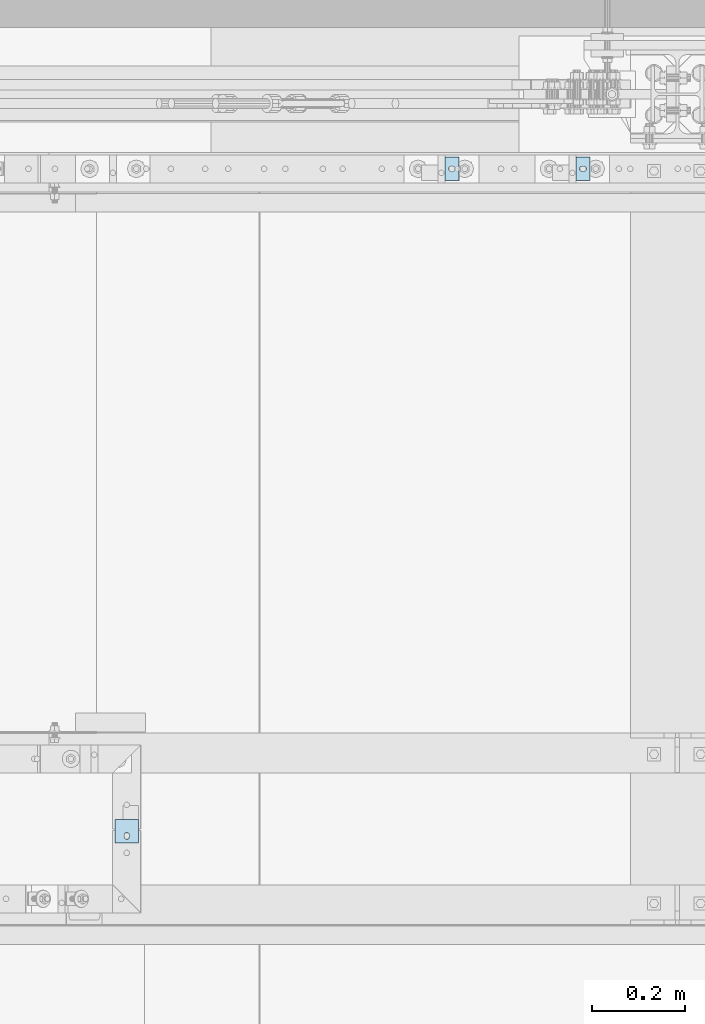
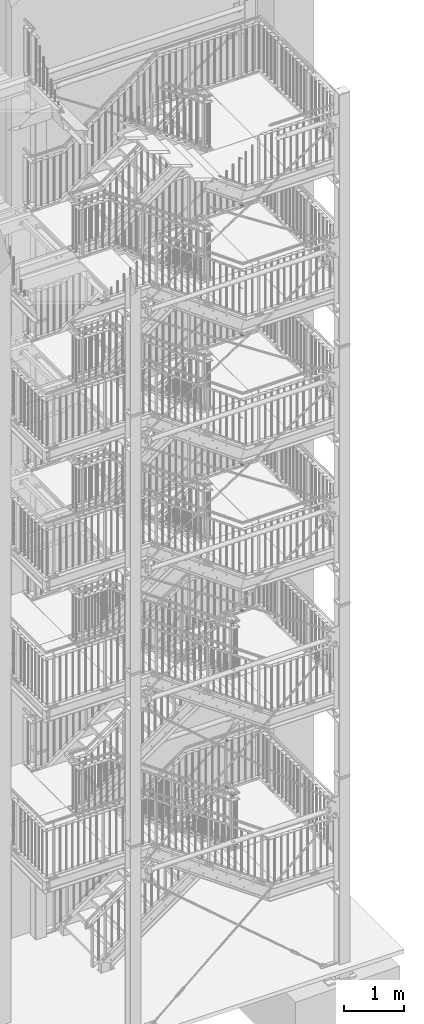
# One storey, part 234 of 831: 14 plates, 14 openings.
"""IFC2X3 building model written with IfcOpenShell, lengths in millimetres."""

from ifc_helpers import new_model, entity, si_unit, converted_unit, point, frame, frame_2d, origin, origin_with_axes, place, context, project, spatial, polyline, circle_curve, line_curve, trimmed, segment, composite_curve, outline, extrude, material, layer, layer_set, element, save


model = new_model("IFC2X3")

# Units and contexts
model_context = context("Model", 3, precision=1e-09, world=origin_with_axes())
ifc_project = project(units=[si_unit("LENGTHUNIT", "METRE", prefix="MILLI"), si_unit("AREAUNIT", "SQUARE_METRE"), si_unit("VOLUMEUNIT", "CUBIC_METRE"), converted_unit("PLANEANGLEUNIT", "DEGREE", entity("IfcPlaneAngleMeasure", 0.01745329), si_unit("PLANEANGLEUNIT", "RADIAN"), dimensions=[0, 0, 0, 0, 0, 0, 0])], contexts=[model_context])

# Site, building, storey
site_placement = place(None, origin_with_axes())
site = spatial("IfcSite", under=ifc_project, at=site_placement, Name="Site", CompositionType="ELEMENT")
building_placement = place(site_placement, origin_with_axes())
building = spatial("IfcBuilding", under=site, at=building_placement, Name="Struktur 1", CompositionType="ELEMENT")
storey_placement = place(building_placement, origin_with_axes())
storey = spatial("IfcBuildingStorey", under=building, at=storey_placement, Name="Default Storey", CompositionType="ELEMENT", Elevation=0.0)

# Plate, opening
ifc_material = material(Name="S235JR")
ifc_layer = layer(ifc_material, 6.0)
ifc_layer_set = layer_set([ifc_layer], Name="S235JR")
plate_1_placement = place(None, frame((8383.444225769, 7356.736971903, 2235.0526312), z_axis=(0.0, 0.0, 1.0), x_axis=(1.0, 0.0, 0.0)))
plate_1 = element("IfcPlate", 1, at=plate_1_placement, inside=storey, material=ifc_layer_set, Name="-", ObjectType="-", context=model_context, shape_type="SweptSolid", body=[
    extrude(outline(polyline([(-15.0, -25.0), (15.0, -25.0), (15.0, 25.0), (-15.0, 25.0), (-15.0, -25.0)])), origin_with_axes(), (0.0, 0.0, 1.0), 6.0),
])
opening_1_placement = place(plate_1_placement, frame((-1e-09, 0.0, -0.5), z_axis=(0.0, 0.0, 1.0), x_axis=(1.0, 0.0, 0.0)))
element("IfcOpeningElement", 2, at=opening_1_placement, cuts=plate_1, ObjectType="Opening", context=model_context, shape_type="SweptSolid", body=[
    extrude(outline(composite_curve([segment(trimmed(line_curve((-2.5, -5.001), (1.0, 0.0), 5.0), [point((-2.5, -5.001))], [point((2.5, -5.001))], True, "CARTESIAN"), True, "CONTINUOUS"), segment(trimmed(circle_curve(frame_2d((2.5, 0.0), x_axis=(1.0, 0.0)), 5.001), [point((2.5, -5.001))], [point((2.5, 5.001))], True, "CARTESIAN"), True, "CONTINUOUS"), segment(trimmed(line_curve((2.5, 5.001), (-1.0, 0.0), 5.0), [point((2.5, 5.001))], [point((-2.5, 5.001))], True, "CARTESIAN"), True, "CONTINUOUS"), segment(trimmed(circle_curve(frame_2d((-2.5, 0.0), x_axis=(1.0, 0.0)), 5.001), [point((-2.5, 5.001))], [point((-2.5, -5.001))], True, "CARTESIAN"), True, "CONTINUOUS")], self_intersect=False)), origin(), (0.0, 0.0, 1.0), 7.0),
])

plate_2_placement = place(None, frame((8383.444225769, 7356.736971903, 3183.8526312), z_axis=(0.0, 0.0, 1.0), x_axis=(1.0, 0.0, 0.0)))
plate_2 = element("IfcPlate", 3, at=plate_2_placement, inside=storey, material=ifc_layer_set, Name="-", ObjectType="-", context=model_context, shape_type="SweptSolid", body=[
    extrude(outline(polyline([(-15.0, -25.0), (15.0, -25.0), (15.0, 25.0), (-15.0, 25.0), (-15.0, -25.0)])), origin_with_axes(), (0.0, 0.0, 1.0), 6.0),
])
opening_2_placement = place(plate_2_placement, frame((-1e-09, 0.0, -0.5), z_axis=(0.0, 0.0, 1.0), x_axis=(1.0, 0.0, 0.0)))
element("IfcOpeningElement", 4, at=opening_2_placement, cuts=plate_2, ObjectType="Opening", context=model_context, shape_type="SweptSolid", body=[
    extrude(outline(composite_curve([segment(trimmed(line_curve((-2.5, -5.001), (1.0, 0.0), 5.0), [point((-2.5, -5.001))], [point((2.5, -5.001))], True, "CARTESIAN"), True, "CONTINUOUS"), segment(trimmed(circle_curve(frame_2d((2.5, 0.0), x_axis=(1.0, 0.0)), 5.001), [point((2.5, -5.001))], [point((2.5, 5.001))], True, "CARTESIAN"), True, "CONTINUOUS"), segment(trimmed(line_curve((2.5, 5.001), (-1.0, 0.0), 5.0), [point((2.5, 5.001))], [point((-2.5, 5.001))], True, "CARTESIAN"), True, "CONTINUOUS"), segment(trimmed(circle_curve(frame_2d((-2.5, 0.0), x_axis=(1.0, 0.0)), 5.001), [point((-2.5, 5.001))], [point((-2.5, -5.001))], True, "CARTESIAN"), True, "CONTINUOUS")], self_intersect=False)), origin(), (0.0, 0.0, 1.0), 7.0),
])

plate_3_placement = place(None, frame((8664.213974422, 7356.736971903, 5728.8947367), z_axis=(0.0, 0.0, 1.0), x_axis=(1.0, 0.0, 0.0)))
plate_3 = element("IfcPlate", 5, at=plate_3_placement, inside=storey, material=ifc_layer_set, Name="-", ObjectType="-", context=model_context, shape_type="SweptSolid", body=[
    extrude(outline(polyline([(-15.0, -25.0), (15.0, -25.0), (15.0, 25.0), (-15.0, 25.0), (-15.0, -25.0)])), origin_with_axes(), (0.0, 0.0, 1.0), 6.0),
])
opening_3_placement = place(plate_3_placement, frame((-1e-09, 0.0, -0.5), z_axis=(0.0, 0.0, 1.0), x_axis=(1.0, 0.0, 0.0)))
element("IfcOpeningElement", 6, at=opening_3_placement, cuts=plate_3, ObjectType="Opening", context=model_context, shape_type="SweptSolid", body=[
    extrude(outline(composite_curve([segment(trimmed(line_curve((-2.5, -5.001), (1.0, 0.0), 5.0), [point((-2.5, -5.001))], [point((2.5, -5.001))], True, "CARTESIAN"), True, "CONTINUOUS"), segment(trimmed(circle_curve(frame_2d((2.5, 0.0), x_axis=(1.0, 0.0)), 5.001), [point((2.5, -5.001))], [point((2.5, 5.001))], True, "CARTESIAN"), True, "CONTINUOUS"), segment(trimmed(line_curve((2.5, 5.001), (-1.0, 0.0), 5.0), [point((2.5, 5.001))], [point((-2.5, 5.001))], True, "CARTESIAN"), True, "CONTINUOUS"), segment(trimmed(circle_curve(frame_2d((-2.5, 0.0), x_axis=(1.0, 0.0)), 5.001), [point((-2.5, 5.001))], [point((-2.5, -5.001))], True, "CARTESIAN"), True, "CONTINUOUS")], self_intersect=False)), origin(), (0.0, 0.0, 1.0), 7.0),
])

plate_4_placement = place(None, frame((8664.213974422, 7356.736971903, 6677.6947367), z_axis=(0.0, 0.0, 1.0), x_axis=(1.0, 0.0, 0.0)))
plate_4 = element("IfcPlate", 7, at=plate_4_placement, inside=storey, material=ifc_layer_set, Name="-", ObjectType="-", context=model_context, shape_type="SweptSolid", body=[
    extrude(outline(polyline([(-15.0, -25.0), (15.0, -25.0), (15.0, 25.0), (-15.0, 25.0), (-15.0, -25.0)])), origin_with_axes(), (0.0, 0.0, 1.0), 6.0),
])
opening_4_placement = place(plate_4_placement, frame((-1e-09, 0.0, -0.5), z_axis=(0.0, 0.0, 1.0), x_axis=(1.0, 0.0, 0.0)))
element("IfcOpeningElement", 8, at=opening_4_placement, cuts=plate_4, ObjectType="Opening", context=model_context, shape_type="SweptSolid", body=[
    extrude(outline(composite_curve([segment(trimmed(line_curve((-2.5, -5.001), (1.0, 0.0), 5.0), [point((-2.5, -5.001))], [point((2.5, -5.001))], True, "CARTESIAN"), True, "CONTINUOUS"), segment(trimmed(circle_curve(frame_2d((2.5, 0.0), x_axis=(1.0, 0.0)), 5.001), [point((2.5, -5.001))], [point((2.5, 5.001))], True, "CARTESIAN"), True, "CONTINUOUS"), segment(trimmed(line_curve((2.5, 5.001), (-1.0, 0.0), 5.0), [point((2.5, 5.001))], [point((-2.5, 5.001))], True, "CARTESIAN"), True, "CONTINUOUS"), segment(trimmed(circle_curve(frame_2d((-2.5, 0.0), x_axis=(1.0, 0.0)), 5.001), [point((-2.5, 5.001))], [point((-2.5, -5.001))], True, "CARTESIAN"), True, "CONTINUOUS")], self_intersect=False)), origin(), (0.0, 0.0, 1.0), 7.0),
])

plate_5_placement = place(None, frame((8664.213974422, 7356.736971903, 8690.0), z_axis=(0.0, 0.0, 1.0), x_axis=(1.0, 0.0, 0.0)))
plate_5 = element("IfcPlate", 9, at=plate_5_placement, inside=storey, material=ifc_layer_set, Name="-", ObjectType="-", context=model_context, shape_type="SweptSolid", body=[
    extrude(outline(polyline([(-15.0, -25.0), (15.0, -25.0), (15.0, 25.0), (-15.0, 25.0), (-15.0, -25.0)])), origin_with_axes(), (0.0, 0.0, 1.0), 6.0),
])
opening_5_placement = place(plate_5_placement, frame((-1e-09, 0.0, -0.5), z_axis=(0.0, 0.0, 1.0), x_axis=(1.0, 0.0, 0.0)))
element("IfcOpeningElement", 10, at=opening_5_placement, cuts=plate_5, ObjectType="Opening", context=model_context, shape_type="SweptSolid", body=[
    extrude(outline(composite_curve([segment(trimmed(line_curve((-2.5, -5.001), (1.0, 0.0), 5.0), [point((-2.5, -5.001))], [point((2.5, -5.001))], True, "CARTESIAN"), True, "CONTINUOUS"), segment(trimmed(circle_curve(frame_2d((2.5, 0.0), x_axis=(1.0, 0.0)), 5.001), [point((2.5, -5.001))], [point((2.5, 5.001))], True, "CARTESIAN"), True, "CONTINUOUS"), segment(trimmed(line_curve((2.5, 5.001), (-1.0, 0.0), 5.0), [point((2.5, 5.001))], [point((-2.5, 5.001))], True, "CARTESIAN"), True, "CONTINUOUS"), segment(trimmed(circle_curve(frame_2d((-2.5, 0.0), x_axis=(1.0, 0.0)), 5.001), [point((-2.5, 5.001))], [point((-2.5, -5.001))], True, "CARTESIAN"), True, "CONTINUOUS")], self_intersect=False)), origin(), (0.0, 0.0, 1.0), 7.0),
])

plate_6_placement = place(None, frame((8664.213974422, 7356.736971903, 9638.8), z_axis=(0.0, 0.0, 1.0), x_axis=(1.0, 0.0, 0.0)))
plate_6 = element("IfcPlate", 11, at=plate_6_placement, inside=storey, material=ifc_layer_set, Name="-", ObjectType="-", context=model_context, shape_type="SweptSolid", body=[
    extrude(outline(polyline([(-15.0, -25.0), (15.0, -25.0), (15.0, 25.0), (-15.0, 25.0), (-15.0, -25.0)])), origin_with_axes(), (0.0, 0.0, 1.0), 6.0),
])
opening_6_placement = place(plate_6_placement, frame((-1e-09, 0.0, -0.5), z_axis=(0.0, 0.0, 1.0), x_axis=(1.0, 0.0, 0.0)))
element("IfcOpeningElement", 12, at=opening_6_placement, cuts=plate_6, ObjectType="Opening", context=model_context, shape_type="SweptSolid", body=[
    extrude(outline(composite_curve([segment(trimmed(line_curve((-2.5, -5.001), (1.0, 0.0), 5.0), [point((-2.5, -5.001))], [point((2.5, -5.001))], True, "CARTESIAN"), True, "CONTINUOUS"), segment(trimmed(circle_curve(frame_2d((2.5, 0.0), x_axis=(1.0, 0.0)), 5.001), [point((2.5, -5.001))], [point((2.5, 5.001))], True, "CARTESIAN"), True, "CONTINUOUS"), segment(trimmed(line_curve((2.5, 5.001), (-1.0, 0.0), 5.0), [point((2.5, 5.001))], [point((-2.5, 5.001))], True, "CARTESIAN"), True, "CONTINUOUS"), segment(trimmed(circle_curve(frame_2d((-2.5, 0.0), x_axis=(1.0, 0.0)), 5.001), [point((-2.5, 5.001))], [point((-2.5, -5.001))], True, "CARTESIAN"), True, "CONTINUOUS")], self_intersect=False)), origin(), (0.0, 0.0, 1.0), 7.0),
])

plate_7_placement = place(None, frame((8664.213974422, 7356.736971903, 11319.5000003), z_axis=(0.0, 0.0, 1.0), x_axis=(1.0, 0.0, 0.0)))
plate_7 = element("IfcPlate", 13, at=plate_7_placement, inside=storey, material=ifc_layer_set, Name="-", ObjectType="-", context=model_context, shape_type="SweptSolid", body=[
    extrude(outline(polyline([(-15.0, -25.0), (15.0, -25.0), (15.0, 25.0), (-15.0, 25.0), (-15.0, -25.0)])), origin_with_axes(), (0.0, 0.0, 1.0), 6.0),
])
opening_7_placement = place(plate_7_placement, frame((-1e-09, 0.0, -0.5), z_axis=(0.0, 0.0, 1.0), x_axis=(1.0, 0.0, 0.0)))
element("IfcOpeningElement", 14, at=opening_7_placement, cuts=plate_7, ObjectType="Opening", context=model_context, shape_type="SweptSolid", body=[
    extrude(outline(composite_curve([segment(trimmed(line_curve((-2.5, -5.001), (1.0, 0.0), 5.0), [point((-2.5, -5.001))], [point((2.5, -5.001))], True, "CARTESIAN"), True, "CONTINUOUS"), segment(trimmed(circle_curve(frame_2d((2.5, 0.0), x_axis=(1.0, 0.0)), 5.001), [point((2.5, -5.001))], [point((2.5, 5.001))], True, "CARTESIAN"), True, "CONTINUOUS"), segment(trimmed(line_curve((2.5, 5.001), (-1.0, 0.0), 5.0), [point((2.5, 5.001))], [point((-2.5, 5.001))], True, "CARTESIAN"), True, "CONTINUOUS"), segment(trimmed(circle_curve(frame_2d((-2.5, 0.0), x_axis=(1.0, 0.0)), 5.001), [point((-2.5, 5.001))], [point((-2.5, -5.001))], True, "CARTESIAN"), True, "CONTINUOUS")], self_intersect=False)), origin(), (0.0, 0.0, 1.0), 7.0),
])

plate_8_placement = place(None, frame((8664.213974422, 7356.736971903, 12268.3000003), z_axis=(0.0, 0.0, 1.0), x_axis=(1.0, 0.0, 0.0)))
plate_8 = element("IfcPlate", 15, at=plate_8_placement, inside=storey, material=ifc_layer_set, Name="-", ObjectType="-", context=model_context, shape_type="SweptSolid", body=[
    extrude(outline(polyline([(-15.0, -25.0), (15.0, -25.0), (15.0, 25.0), (-15.0, 25.0), (-15.0, -25.0)])), origin_with_axes(), (0.0, 0.0, 1.0), 6.0),
])
opening_8_placement = place(plate_8_placement, frame((-1e-09, 0.0, -0.5), z_axis=(0.0, 0.0, 1.0), x_axis=(1.0, 0.0, 0.0)))
element("IfcOpeningElement", 16, at=opening_8_placement, cuts=plate_8, ObjectType="Opening", context=model_context, shape_type="SweptSolid", body=[
    extrude(outline(composite_curve([segment(trimmed(line_curve((-2.5, -5.001), (1.0, 0.0), 5.0), [point((-2.5, -5.001))], [point((2.5, -5.001))], True, "CARTESIAN"), True, "CONTINUOUS"), segment(trimmed(circle_curve(frame_2d((2.5, 0.0), x_axis=(1.0, 0.0)), 5.001), [point((2.5, -5.001))], [point((2.5, 5.001))], True, "CARTESIAN"), True, "CONTINUOUS"), segment(trimmed(line_curve((2.5, 5.001), (-1.0, 0.0), 5.0), [point((2.5, 5.001))], [point((-2.5, 5.001))], True, "CARTESIAN"), True, "CONTINUOUS"), segment(trimmed(circle_curve(frame_2d((-2.5, 0.0), x_axis=(1.0, 0.0)), 5.001), [point((-2.5, 5.001))], [point((-2.5, -5.001))], True, "CARTESIAN"), True, "CONTINUOUS")], self_intersect=False)), origin(), (0.0, 0.0, 1.0), 7.0),
])

plate_9_placement = place(None, frame((8664.213974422, 7356.736971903, 13950.5000001), z_axis=(0.0, 0.0, 1.0), x_axis=(1.0, 0.0, 0.0)))
plate_9 = element("IfcPlate", 17, at=plate_9_placement, inside=storey, material=ifc_layer_set, Name="-", ObjectType="-", context=model_context, shape_type="SweptSolid", body=[
    extrude(outline(polyline([(-15.0, -25.0), (15.0, -25.0), (15.0, 25.0), (-15.0, 25.0), (-15.0, -25.0)])), origin_with_axes(), (0.0, 0.0, 1.0), 6.0),
])
opening_9_placement = place(plate_9_placement, frame((-1e-09, 0.0, -0.5), z_axis=(0.0, 0.0, 1.0), x_axis=(1.0, 0.0, 0.0)))
element("IfcOpeningElement", 18, at=opening_9_placement, cuts=plate_9, ObjectType="Opening", context=model_context, shape_type="SweptSolid", body=[
    extrude(outline(composite_curve([segment(trimmed(line_curve((-2.5, -5.001), (1.0, 0.0), 5.0), [point((-2.5, -5.001))], [point((2.5, -5.001))], True, "CARTESIAN"), True, "CONTINUOUS"), segment(trimmed(circle_curve(frame_2d((2.5, 0.0), x_axis=(1.0, 0.0)), 5.001), [point((2.5, -5.001))], [point((2.5, 5.001))], True, "CARTESIAN"), True, "CONTINUOUS"), segment(trimmed(line_curve((2.5, 5.001), (-1.0, 0.0), 5.0), [point((2.5, 5.001))], [point((-2.5, 5.001))], True, "CARTESIAN"), True, "CONTINUOUS"), segment(trimmed(circle_curve(frame_2d((-2.5, 0.0), x_axis=(1.0, 0.0)), 5.001), [point((-2.5, 5.001))], [point((-2.5, -5.001))], True, "CARTESIAN"), True, "CONTINUOUS")], self_intersect=False)), origin(), (0.0, 0.0, 1.0), 7.0),
])

plate_10_placement = place(None, frame((8664.213974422, 7356.736971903, 14899.3000001), z_axis=(0.0, 0.0, 1.0), x_axis=(1.0, 0.0, 0.0)))
plate_10 = element("IfcPlate", 19, at=plate_10_placement, inside=storey, material=ifc_layer_set, Name="-", ObjectType="-", context=model_context, shape_type="SweptSolid", body=[
    extrude(outline(polyline([(-15.0, -25.0), (15.0, -25.0), (15.0, 25.0), (-15.0, 25.0), (-15.0, -25.0)])), origin_with_axes(), (0.0, 0.0, 1.0), 6.0),
])
opening_10_placement = place(plate_10_placement, frame((-1e-09, 0.0, -0.5), z_axis=(0.0, 0.0, 1.0), x_axis=(1.0, 0.0, 0.0)))
element("IfcOpeningElement", 20, at=opening_10_placement, cuts=plate_10, ObjectType="Opening", context=model_context, shape_type="SweptSolid", body=[
    extrude(outline(composite_curve([segment(trimmed(line_curve((-2.5, -5.001), (1.0, 0.0), 5.0), [point((-2.5, -5.001))], [point((2.5, -5.001))], True, "CARTESIAN"), True, "CONTINUOUS"), segment(trimmed(circle_curve(frame_2d((2.5, 0.0), x_axis=(1.0, 0.0)), 5.001), [point((2.5, -5.001))], [point((2.5, 5.001))], True, "CARTESIAN"), True, "CONTINUOUS"), segment(trimmed(line_curve((2.5, 5.001), (-1.0, 0.0), 5.0), [point((2.5, 5.001))], [point((-2.5, 5.001))], True, "CARTESIAN"), True, "CONTINUOUS"), segment(trimmed(circle_curve(frame_2d((-2.5, 0.0), x_axis=(1.0, 0.0)), 5.001), [point((-2.5, 5.001))], [point((-2.5, -5.001))], True, "CARTESIAN"), True, "CONTINUOUS")], self_intersect=False)), origin(), (0.0, 0.0, 1.0), 7.0),
])

plate_11_placement = place(None, frame((7686.536342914, 5936.736971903, 2235.0526312), z_axis=(0.0, 0.0, -1.0), x_axis=(0.0, -1.0, 0.0)))
plate_11 = element("IfcPlate", 21, at=plate_11_placement, inside=storey, material=ifc_layer_set, Name="-", ObjectType="-", context=model_context, shape_type="SweptSolid", body=[
    extrude(outline(polyline([(-25.0, -25.0), (25.0, -25.0), (25.0, 25.0), (-25.0, 25.0), (-25.0, -25.0)])), origin_with_axes(), (0.0, 0.0, -1.0), 6.0),
])
opening_11_placement = place(plate_11_placement, frame((7.499999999, -5.001, 0.5), z_axis=(0.0, 0.0, 1.0), x_axis=(1.0, 0.0, 0.0)))
element("IfcOpeningElement", 22, at=opening_11_placement, cuts=plate_11, ObjectType="Opening", context=model_context, shape_type="SweptSolid", body=[
    extrude(outline(composite_curve([segment(trimmed(line_curve((0.0, 0.0), (1.0, 0.0), 5.0), [point((0.0, 0.0))], [point((5.0, 0.0))], True, "CARTESIAN"), True, "CONTINUOUS"), segment(trimmed(circle_curve(frame_2d((5.0, 5.001), x_axis=(1.0, 0.0)), 5.001), [point((5.0, 0.0))], [point((5.0, 10.002))], True, "CARTESIAN"), True, "CONTINUOUS"), segment(trimmed(line_curve((5.0, 10.002), (-1.0, 0.0), 5.0), [point((5.0, 10.002))], [point((0.0, 10.002))], True, "CARTESIAN"), True, "CONTINUOUS"), segment(trimmed(circle_curve(frame_2d((0.0, 5.001), x_axis=(1.0, 0.0)), 5.001), [point((0.0, 10.002))], [point((0.0, 0.0))], True, "CARTESIAN"), True, "CONTINUOUS")], self_intersect=False)), origin(), (0.0, 0.0, -1.0), 7.0),
])

plate_12_placement = place(None, frame((7686.536342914, 5936.736971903, 3183.8526312), z_axis=(0.0, 0.0, -1.0), x_axis=(0.0, -1.0, 0.0)))
plate_12 = element("IfcPlate", 23, at=plate_12_placement, inside=storey, material=ifc_layer_set, Name="-", ObjectType="-", context=model_context, shape_type="SweptSolid", body=[
    extrude(outline(polyline([(-25.0, -25.0), (25.0, -25.0), (25.0, 25.0), (-25.0, 25.0), (-25.0, -25.0)])), origin_with_axes(), (0.0, 0.0, -1.0), 6.0),
])
opening_12_placement = place(plate_12_placement, frame((7.499999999, -5.001, 0.5), z_axis=(0.0, 0.0, 1.0), x_axis=(1.0, 0.0, 0.0)))
element("IfcOpeningElement", 24, at=opening_12_placement, cuts=plate_12, ObjectType="Opening", context=model_context, shape_type="SweptSolid", body=[
    extrude(outline(composite_curve([segment(trimmed(line_curve((0.0, 0.0), (1.0, 0.0), 5.0), [point((0.0, 0.0))], [point((5.0, 0.0))], True, "CARTESIAN"), True, "CONTINUOUS"), segment(trimmed(circle_curve(frame_2d((5.0, 5.001), x_axis=(1.0, 0.0)), 5.001), [point((5.0, 0.0))], [point((5.0, 10.002))], True, "CARTESIAN"), True, "CONTINUOUS"), segment(trimmed(line_curve((5.0, 10.002), (-1.0, 0.0), 5.0), [point((5.0, 10.002))], [point((0.0, 10.002))], True, "CARTESIAN"), True, "CONTINUOUS"), segment(trimmed(circle_curve(frame_2d((0.0, 5.001), x_axis=(1.0, 0.0)), 5.001), [point((0.0, 10.002))], [point((0.0, 0.0))], True, "CARTESIAN"), True, "CONTINUOUS")], self_intersect=False)), origin(), (0.0, 0.0, -1.0), 7.0),
])

plate_13_placement = place(None, frame((7686.115085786, 5936.736971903, 5728.8947367), z_axis=(0.0, 0.0, -1.0), x_axis=(0.0, -1.0, 0.0)))
plate_13 = element("IfcPlate", 25, at=plate_13_placement, inside=storey, material=ifc_layer_set, Name="-", ObjectType="-", context=model_context, shape_type="SweptSolid", body=[
    extrude(outline(polyline([(-25.0, -25.0), (25.0, -25.0), (25.0, 25.0), (-25.0, 25.0), (-25.0, -25.0)])), origin_with_axes(), (0.0, 0.0, -1.0), 6.0),
])
opening_13_placement = place(plate_13_placement, frame((7.499999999, -5.001, 0.5), z_axis=(0.0, 0.0, 1.0), x_axis=(1.0, 0.0, 0.0)))
element("IfcOpeningElement", 26, at=opening_13_placement, cuts=plate_13, ObjectType="Opening", context=model_context, shape_type="SweptSolid", body=[
    extrude(outline(composite_curve([segment(trimmed(line_curve((0.0, 0.0), (1.0, 0.0), 5.0), [point((0.0, 0.0))], [point((5.0, 0.0))], True, "CARTESIAN"), True, "CONTINUOUS"), segment(trimmed(circle_curve(frame_2d((5.0, 5.001), x_axis=(1.0, 0.0)), 5.001), [point((5.0, 0.0))], [point((5.0, 10.002))], True, "CARTESIAN"), True, "CONTINUOUS"), segment(trimmed(line_curve((5.0, 10.002), (-1.0, 0.0), 5.0), [point((5.0, 10.002))], [point((0.0, 10.002))], True, "CARTESIAN"), True, "CONTINUOUS"), segment(trimmed(circle_curve(frame_2d((0.0, 5.001), x_axis=(1.0, 0.0)), 5.001), [point((0.0, 10.002))], [point((0.0, 0.0))], True, "CARTESIAN"), True, "CONTINUOUS")], self_intersect=False)), origin(), (0.0, 0.0, -1.0), 7.0),
])

plate_14_placement = place(None, frame((7686.115085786, 5936.736971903, 6677.6947367), z_axis=(0.0, 0.0, -1.0), x_axis=(0.0, -1.0, 0.0)))
plate_14 = element("IfcPlate", 27, at=plate_14_placement, inside=storey, material=ifc_layer_set, Name="-", ObjectType="-", context=model_context, shape_type="SweptSolid", body=[
    extrude(outline(polyline([(-25.0, -25.0), (25.0, -25.0), (25.0, 25.0), (-25.0, 25.0), (-25.0, -25.0)])), origin_with_axes(), (0.0, 0.0, -1.0), 6.0),
])
opening_14_placement = place(plate_14_placement, frame((7.499999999, -5.001, 0.5), z_axis=(0.0, 0.0, 1.0), x_axis=(1.0, 0.0, 0.0)))
element("IfcOpeningElement", 28, at=opening_14_placement, cuts=plate_14, ObjectType="Opening", context=model_context, shape_type="SweptSolid", body=[
    extrude(outline(composite_curve([segment(trimmed(line_curve((0.0, 0.0), (1.0, 0.0), 5.0), [point((0.0, 0.0))], [point((5.0, 0.0))], True, "CARTESIAN"), True, "CONTINUOUS"), segment(trimmed(circle_curve(frame_2d((5.0, 5.001), x_axis=(1.0, 0.0)), 5.001), [point((5.0, 0.0))], [point((5.0, 10.002))], True, "CARTESIAN"), True, "CONTINUOUS"), segment(trimmed(line_curve((5.0, 10.002), (-1.0, 0.0), 5.0), [point((5.0, 10.002))], [point((0.0, 10.002))], True, "CARTESIAN"), True, "CONTINUOUS"), segment(trimmed(circle_curve(frame_2d((0.0, 5.001), x_axis=(1.0, 0.0)), 5.001), [point((0.0, 10.002))], [point((0.0, 0.0))], True, "CARTESIAN"), True, "CONTINUOUS")], self_intersect=False)), origin(), (0.0, 0.0, -1.0), 7.0),
])

save(model, "model.ifc")
